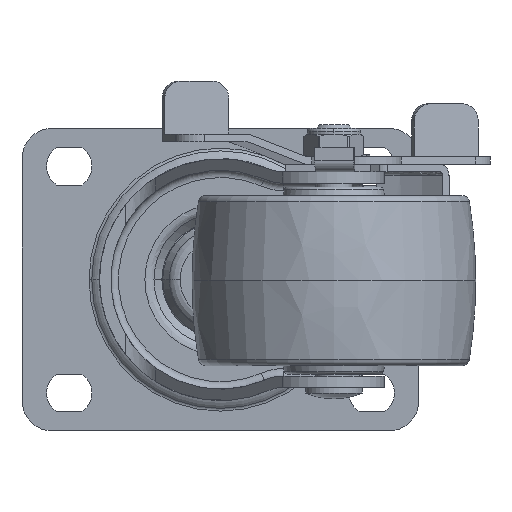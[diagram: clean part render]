
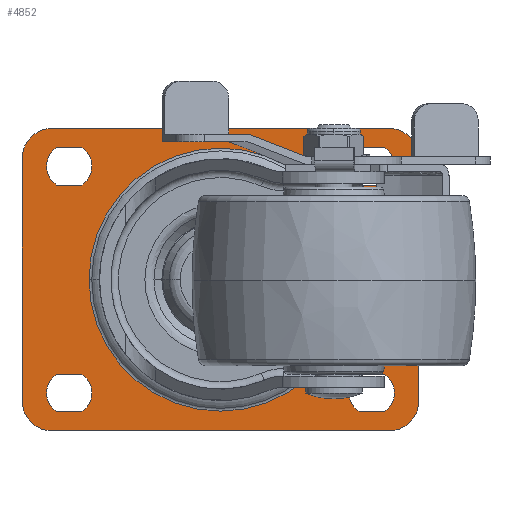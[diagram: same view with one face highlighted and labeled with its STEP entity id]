
A CAD part, front view. The second image highlights one B-rep face of the part: STEP entity #4852.
In plain terms, the highlighted planar face has unit normal (0, -1, 0) as drawn and (0, 1, 0) by its records, which use the part's own axes.
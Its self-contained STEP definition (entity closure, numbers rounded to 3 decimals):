
#3773=CARTESIAN_POINT('',(-82.914,15.458,0.));
#3774=DIRECTION('',(0.,-1.,0.));
#3775=DIRECTION('',(-1.,0.,0.));
#3776=AXIS2_PLACEMENT_3D('',#3773,#3774,#3775);
#3778=CARTESIAN_POINT('',(-82.914,15.458,0.));
#3779=DIRECTION('',(0.,1.,0.));
#3780=DIRECTION('',(-1.,0.,0.));
#3781=AXIS2_PLACEMENT_3D('',#3778,#3779,#3780);
#3783=DIRECTION('',(0.,0.,1.));
#3784=VECTOR('',#3783,64.);
#3785=CARTESIAN_POINT('',(-30.414,15.458,-32.));
#3786=LINE('',#3785,#3784);
#3787=CARTESIAN_POINT('',(-38.414,15.458,32.));
#3788=DIRECTION('',(0.,-1.,0.));
#3789=DIRECTION('',(1.,0.,0.));
#3790=AXIS2_PLACEMENT_3D('',#3787,#3788,#3789);
#3792=DIRECTION('',(-1.,0.,0.));
#3793=VECTOR('',#3792,89.);
#3794=CARTESIAN_POINT('',(-38.414,15.458,40.));
#3795=LINE('',#3794,#3793);
#3796=CARTESIAN_POINT('',(-127.414,15.458,32.));
#3797=DIRECTION('',(0.,-1.,0.));
#3798=DIRECTION('',(0.,0.,1.));
#3799=AXIS2_PLACEMENT_3D('',#3796,#3797,#3798);
#3801=DIRECTION('',(0.,0.,-1.));
#3802=VECTOR('',#3801,64.);
#3803=CARTESIAN_POINT('',(-135.414,15.458,32.));
#3804=LINE('',#3803,#3802);
#3805=CARTESIAN_POINT('',(-127.414,15.458,-32.));
#3806=DIRECTION('',(0.,-1.,0.));
#3807=DIRECTION('',(-1.,0.,0.));
#3808=AXIS2_PLACEMENT_3D('',#3805,#3806,#3807);
#3810=DIRECTION('',(1.,0.,0.));
#3811=VECTOR('',#3810,89.);
#3812=CARTESIAN_POINT('',(-127.414,15.458,-40.));
#3813=LINE('',#3812,#3811);
#3814=CARTESIAN_POINT('',(-38.414,15.458,-32.));
#3815=DIRECTION('',(0.,-1.,0.));
#3816=DIRECTION('',(0.,0.,-1.));
#3817=AXIS2_PLACEMENT_3D('',#3814,#3815,#3816);
#3819=CARTESIAN_POINT('',(-42.914,15.458,-30.));
#3820=DIRECTION('',(0.,-1.,0.));
#3821=DIRECTION('',(0.553,0.,-0.833));
#3822=AXIS2_PLACEMENT_3D('',#3819,#3820,#3821);
#3824=DIRECTION('',(1.,0.,0.));
#3825=VECTOR('',#3824,6.633);
#3826=CARTESIAN_POINT('',(-46.231,15.458,-35.));
#3827=LINE('',#3826,#3825);
#3828=CARTESIAN_POINT('',(-42.914,15.458,-30.));
#3829=DIRECTION('',(0.,-1.,0.));
#3830=DIRECTION('',(-0.553,0.,0.833));
#3831=AXIS2_PLACEMENT_3D('',#3828,#3829,#3830);
#3833=DIRECTION('',(-1.,0.,0.));
#3834=VECTOR('',#3833,6.633);
#3835=CARTESIAN_POINT('',(-39.597,15.458,-25.));
#3836=LINE('',#3835,#3834);
#3837=DIRECTION('',(1.,0.,0.));
#3838=VECTOR('',#3837,6.633);
#3839=CARTESIAN_POINT('',(-126.231,15.458,-35.));
#3840=LINE('',#3839,#3838);
#3841=CARTESIAN_POINT('',(-122.914,15.458,-30.));
#3842=DIRECTION('',(0.,-1.,0.));
#3843=DIRECTION('',(-0.553,0.,0.833));
#3844=AXIS2_PLACEMENT_3D('',#3841,#3842,#3843);
#3846=DIRECTION('',(-1.,0.,0.));
#3847=VECTOR('',#3846,6.633);
#3848=CARTESIAN_POINT('',(-119.597,15.458,-25.));
#3849=LINE('',#3848,#3847);
#3850=CARTESIAN_POINT('',(-122.914,15.458,-30.));
#3851=DIRECTION('',(0.,-1.,0.));
#3852=DIRECTION('',(0.553,0.,-0.833));
#3853=AXIS2_PLACEMENT_3D('',#3850,#3851,#3852);
#3855=DIRECTION('',(-1.,0.,0.));
#3856=VECTOR('',#3855,6.633);
#3857=CARTESIAN_POINT('',(-39.597,15.458,35.));
#3858=LINE('',#3857,#3856);
#3859=CARTESIAN_POINT('',(-42.914,15.458,30.));
#3860=DIRECTION('',(0.,-1.,0.));
#3861=DIRECTION('',(0.553,0.,-0.833));
#3862=AXIS2_PLACEMENT_3D('',#3859,#3860,#3861);
#3864=DIRECTION('',(1.,0.,0.));
#3865=VECTOR('',#3864,6.633);
#3866=CARTESIAN_POINT('',(-46.231,15.458,25.));
#3867=LINE('',#3866,#3865);
#3868=CARTESIAN_POINT('',(-42.914,15.458,30.));
#3869=DIRECTION('',(0.,-1.,0.));
#3870=DIRECTION('',(-0.553,0.,0.833));
#3871=AXIS2_PLACEMENT_3D('',#3868,#3869,#3870);
#3873=CARTESIAN_POINT('',(-122.914,15.458,30.));
#3874=DIRECTION('',(0.,-1.,0.));
#3875=DIRECTION('',(-0.553,0.,0.833));
#3876=AXIS2_PLACEMENT_3D('',#3873,#3874,#3875);
#3878=DIRECTION('',(-1.,0.,0.));
#3879=VECTOR('',#3878,6.633);
#3880=CARTESIAN_POINT('',(-119.597,15.458,35.));
#3881=LINE('',#3880,#3879);
#3882=CARTESIAN_POINT('',(-122.914,15.458,30.));
#3883=DIRECTION('',(0.,-1.,0.));
#3884=DIRECTION('',(0.553,0.,-0.833));
#3885=AXIS2_PLACEMENT_3D('',#3882,#3883,#3884);
#3887=DIRECTION('',(1.,0.,0.));
#3888=VECTOR('',#3887,6.633);
#3889=CARTESIAN_POINT('',(-126.231,15.458,25.));
#3890=LINE('',#3889,#3888);
#4041=CARTESIAN_POINT('',(-117.686,15.458,0.));
#4042=VERTEX_POINT('',#4041);
#4081=CARTESIAN_POINT('',(-48.142,15.458,
0.));
#4082=VERTEX_POINT('',#4081);
#4099=CARTESIAN_POINT('',(-135.414,15.458,-32.));
#4100=CARTESIAN_POINT('',(-127.414,15.458,-40.));
#4101=VERTEX_POINT('',#4099);
#4102=VERTEX_POINT('',#4100);
#4103=CARTESIAN_POINT('',(-38.414,15.458,-40.));
#4104=CARTESIAN_POINT('',(-30.414,15.458,-32.));
#4105=VERTEX_POINT('',#4103);
#4106=VERTEX_POINT('',#4104);
#4107=CARTESIAN_POINT('',(-30.414,15.458,32.));
#4108=CARTESIAN_POINT('',(-38.414,15.458,40.));
#4109=VERTEX_POINT('',#4107);
#4110=VERTEX_POINT('',#4108);
#4111=CARTESIAN_POINT('',(-127.414,15.458,40.));
#4112=CARTESIAN_POINT('',(-135.414,15.458,32.));
#4113=VERTEX_POINT('',#4111);
#4114=VERTEX_POINT('',#4112);
#4115=CARTESIAN_POINT('',(-39.597,15.458,-35.));
#4116=CARTESIAN_POINT('',(-39.597,15.458,-25.));
#4117=VERTEX_POINT('',#4115);
#4118=VERTEX_POINT('',#4116);
#4119=CARTESIAN_POINT('',(-46.231,15.458,-25.));
#4120=VERTEX_POINT('',#4119);
#4121=CARTESIAN_POINT('',(-46.231,15.458,-35.));
#4122=VERTEX_POINT('',#4121);
#4123=CARTESIAN_POINT('',(-126.231,15.458,-35.));
#4124=CARTESIAN_POINT('',(-119.597,15.458,-35.));
#4125=VERTEX_POINT('',#4123);
#4126=VERTEX_POINT('',#4124);
#4127=CARTESIAN_POINT('',(-119.597,15.458,-25.));
#4128=VERTEX_POINT('',#4127);
#4129=CARTESIAN_POINT('',(-126.231,15.458,-25.));
#4130=VERTEX_POINT('',#4129);
#4131=CARTESIAN_POINT('',(-39.597,15.458,35.));
#4132=CARTESIAN_POINT('',(-46.231,15.458,35.));
#4133=VERTEX_POINT('',#4131);
#4134=VERTEX_POINT('',#4132);
#4135=CARTESIAN_POINT('',(-46.231,15.458,25.));
#4136=VERTEX_POINT('',#4135);
#4137=CARTESIAN_POINT('',(-39.597,15.458,25.));
#4138=VERTEX_POINT('',#4137);
#4139=CARTESIAN_POINT('',(-126.231,15.458,35.));
#4140=CARTESIAN_POINT('',(-126.231,15.458,25.));
#4141=VERTEX_POINT('',#4139);
#4142=VERTEX_POINT('',#4140);
#4143=CARTESIAN_POINT('',(-119.597,15.458,25.));
#4144=VERTEX_POINT('',#4143);
#4145=CARTESIAN_POINT('',(-119.597,15.458,35.));
#4146=VERTEX_POINT('',#4145);
#4785=CARTESIAN_POINT('',(-82.914,15.458,0.));
#4786=DIRECTION('',(0.,-1.,0.));
#4787=DIRECTION('',(-1.,0.,0.));
#4788=AXIS2_PLACEMENT_3D('',#4785,#4786,#4787);
#4789=PLANE('',#4788);
#4791=ORIENTED_EDGE('',*,*,#4790,.T.);
#4793=ORIENTED_EDGE('',*,*,#4792,.T.);
#4795=ORIENTED_EDGE('',*,*,#4794,.T.);
#4797=ORIENTED_EDGE('',*,*,#4796,.T.);
#4799=ORIENTED_EDGE('',*,*,#4798,.T.);
#4801=ORIENTED_EDGE('',*,*,#4800,.T.);
#4803=ORIENTED_EDGE('',*,*,#4802,.T.);
#4805=ORIENTED_EDGE('',*,*,#4804,.T.);
#4806=EDGE_LOOP('',(#4791,#4793,#4795,#4797,#4799,#4801,#4803,#4805));
#4807=FACE_OUTER_BOUND('',#4806,.F.);
#4808=ORIENTED_EDGE('',*,*,#4778,.F.);
#4809=ORIENTED_EDGE('',*,*,#4767,.T.);
#4810=EDGE_LOOP('',(#4808,#4809));
#4811=FACE_BOUND('',#4810,.F.);
#4813=ORIENTED_EDGE('',*,*,#4812,.F.);
#4815=ORIENTED_EDGE('',*,*,#4814,.F.);
#4817=ORIENTED_EDGE('',*,*,#4816,.F.);
#4819=ORIENTED_EDGE('',*,*,#4818,.F.);
#4820=EDGE_LOOP('',(#4813,#4815,#4817,#4819));
#4821=FACE_BOUND('',#4820,.F.);
#4823=ORIENTED_EDGE('',*,*,#4822,.F.);
#4825=ORIENTED_EDGE('',*,*,#4824,.F.);
#4827=ORIENTED_EDGE('',*,*,#4826,.F.);
#4829=ORIENTED_EDGE('',*,*,#4828,.F.);
#4830=EDGE_LOOP('',(#4823,#4825,#4827,#4829));
#4831=FACE_BOUND('',#4830,.F.);
#4833=ORIENTED_EDGE('',*,*,#4832,.F.);
#4835=ORIENTED_EDGE('',*,*,#4834,.F.);
#4837=ORIENTED_EDGE('',*,*,#4836,.F.);
#4839=ORIENTED_EDGE('',*,*,#4838,.F.);
#4840=EDGE_LOOP('',(#4833,#4835,#4837,#4839));
#4841=FACE_BOUND('',#4840,.F.);
#4843=ORIENTED_EDGE('',*,*,#4842,.F.);
#4845=ORIENTED_EDGE('',*,*,#4844,.F.);
#4847=ORIENTED_EDGE('',*,*,#4846,.F.);
#4849=ORIENTED_EDGE('',*,*,#4848,.F.);
#4850=EDGE_LOOP('',(#4843,#4845,#4847,#4849));
#4851=FACE_BOUND('',#4850,.F.);
#3777=CIRCLE('',#3776,34.772);
#3782=CIRCLE('',#3781,34.772);
#3791=CIRCLE('',#3790,8.);
#3800=CIRCLE('',#3799,8.);
#3809=CIRCLE('',#3808,8.);
#3818=CIRCLE('',#3817,8.);
#3823=CIRCLE('',#3822,6.);
#3832=CIRCLE('',#3831,6.);
#3845=CIRCLE('',#3844,6.);
#3854=CIRCLE('',#3853,6.);
#3863=CIRCLE('',#3862,6.);
#3872=CIRCLE('',#3871,6.);
#3877=CIRCLE('',#3876,6.);
#3886=CIRCLE('',#3885,6.);
#4767=EDGE_CURVE('',#4042,#4082,#3782,.T.);
#4778=EDGE_CURVE('',#4042,#4082,#3777,.T.);
#4790=EDGE_CURVE('',#4106,#4109,#3786,.T.);
#4792=EDGE_CURVE('',#4109,#4110,#3791,.T.);
#4794=EDGE_CURVE('',#4110,#4113,#3795,.T.);
#4796=EDGE_CURVE('',#4113,#4114,#3800,.T.);
#4798=EDGE_CURVE('',#4114,#4101,#3804,.T.);
#4800=EDGE_CURVE('',#4101,#4102,#3809,.T.);
#4802=EDGE_CURVE('',#4102,#4105,#3813,.T.);
#4804=EDGE_CURVE('',#4105,#4106,#3818,.T.);
#4812=EDGE_CURVE('',#4117,#4118,#3823,.T.);
#4814=EDGE_CURVE('',#4122,#4117,#3827,.T.);
#4816=EDGE_CURVE('',#4120,#4122,#3832,.T.);
#4818=EDGE_CURVE('',#4118,#4120,#3836,.T.);
#4822=EDGE_CURVE('',#4125,#4126,#3840,.T.);
#4824=EDGE_CURVE('',#4130,#4125,#3845,.T.);
#4826=EDGE_CURVE('',#4128,#4130,#3849,.T.);
#4828=EDGE_CURVE('',#4126,#4128,#3854,.T.);
#4832=EDGE_CURVE('',#4133,#4134,#3858,.T.);
#4834=EDGE_CURVE('',#4138,#4133,#3863,.T.);
#4836=EDGE_CURVE('',#4136,#4138,#3867,.T.);
#4838=EDGE_CURVE('',#4134,#4136,#3872,.T.);
#4842=EDGE_CURVE('',#4141,#4142,#3877,.T.);
#4844=EDGE_CURVE('',#4146,#4141,#3881,.T.);
#4846=EDGE_CURVE('',#4144,#4146,#3886,.T.);
#4848=EDGE_CURVE('',#4142,#4144,#3890,.T.);
#4852=ADVANCED_FACE('',(#4807,#4811,#4821,#4831,#4841,#4851),#4789,.F.);
